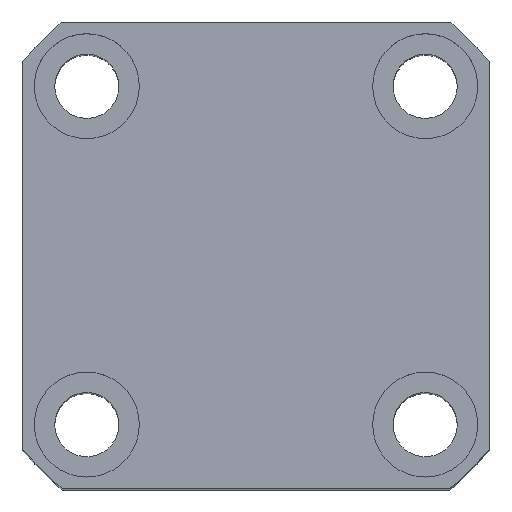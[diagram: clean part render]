
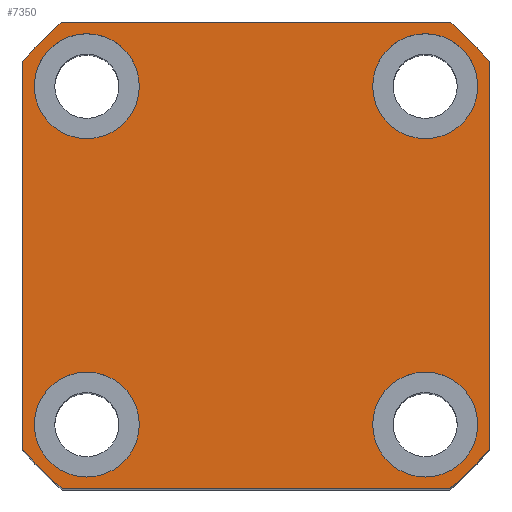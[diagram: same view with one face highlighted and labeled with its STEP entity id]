
A CAD part, top view. The second image highlights one B-rep face of the part: STEP entity #7350.
In plain terms, the highlighted planar face has unit normal (0, 0, 1).
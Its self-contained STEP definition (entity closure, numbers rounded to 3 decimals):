
#6 = CARTESIAN_POINT ( 'NONE',  ( 20., 29., 62.5 ) ) ;
#17 = VECTOR ( 'NONE', #17394, 1000. ) ;
#73 = DIRECTION ( 'NONE',  ( 0., 0., 1. ) ) ;
#102 = CARTESIAN_POINT ( 'NONE',  ( -20., -29., 62.5 ) ) ;
#285 = DIRECTION ( 'NONE',  ( 0., 0., 1. ) ) ;
#292 = VERTEX_POINT ( 'NONE', #15828 ) ;
#428 = DIRECTION ( 'NONE',  ( 0., -1., 0. ) ) ;
#568 = VERTEX_POINT ( 'NONE', #16883 ) ;
#718 = DIRECTION ( 'NONE',  ( 1., 0., 0. ) ) ;
#903 = CARTESIAN_POINT ( 'NONE',  ( -38., -29., 62.5 ) ) ;
#1020 = FACE_OUTER_BOUND ( 'NONE', #5234, .T. ) ;
#1225 = CIRCLE ( 'NONE', #4037, 9. ) ;
#1286 = VERTEX_POINT ( 'NONE', #6 ) ;
#1467 = AXIS2_PLACEMENT_3D ( 'NONE', #5833, #14199, #8624 ) ;
#1583 = VERTEX_POINT ( 'NONE', #15772 ) ;
#1852 = VERTEX_POINT ( 'NONE', #7796 ) ;
#2068 = DIRECTION ( 'NONE',  ( 0., 0., 1. ) ) ;
#2073 = AXIS2_PLACEMENT_3D ( 'NONE', #9686, #12630, #15145 ) ;
#2148 = CARTESIAN_POINT ( 'NONE',  ( -33.226, -40., 62.5 ) ) ;
#2243 = EDGE_CURVE ( 'NONE', #14108, #5943, #10506, .T. ) ;
#2357 = CARTESIAN_POINT ( 'NONE',  ( 33.226, 40., 62.5 ) ) ;
#2402 = EDGE_CURVE ( 'NONE', #16177, #9061, #12923, .T. ) ;
#2406 = ORIENTED_EDGE ( 'NONE', *, *, #17835, .F. ) ;
#2515 = EDGE_LOOP ( 'NONE', ( #17496, #6824 ) ) ;
#2622 = ORIENTED_EDGE ( 'NONE', *, *, #16618, .T. ) ;
#2637 = DIRECTION ( 'NONE',  ( 1., 0., 0. ) ) ;
#2700 = CARTESIAN_POINT ( 'NONE',  ( 0., 0., 62.5 ) ) ;
#2776 = CARTESIAN_POINT ( 'NONE',  ( 40., 33.226, 62.5 ) ) ;
#2810 = AXIS2_PLACEMENT_3D ( 'NONE', #6272, #14658, #4885 ) ;
#3056 = VERTEX_POINT ( 'NONE', #3635 ) ;
#3172 = DIRECTION ( 'NONE',  ( 1., 0., 0. ) ) ;
#3584 = ORIENTED_EDGE ( 'NONE', *, *, #11214, .T. ) ;
#3612 = CIRCLE ( 'NONE', #12573, 9. ) ;
#3616 = CARTESIAN_POINT ( 'NONE',  ( -29., 29., 62.5 ) ) ;
#3635 = CARTESIAN_POINT ( 'NONE',  ( 38., 29., 62.5 ) ) ;
#3950 = AXIS2_PLACEMENT_3D ( 'NONE', #17189, #8726, #8858 ) ;
#4037 = AXIS2_PLACEMENT_3D ( 'NONE', #3616, #13358, #11899 ) ;
#4089 = EDGE_CURVE ( 'NONE', #17787, #9983, #12226, .T. ) ;
#4161 = AXIS2_PLACEMENT_3D ( 'NONE', #2700, #73, #2637 ) ;
#4166 = DIRECTION ( 'NONE',  ( 1., 0., 0. ) ) ;
#4372 = CARTESIAN_POINT ( 'NONE',  ( -33.226, 40., 62.5 ) ) ;
#4448 = ORIENTED_EDGE ( 'NONE', *, *, #4588, .F. ) ;
#4465 = ORIENTED_EDGE ( 'NONE', *, *, #5081, .T. ) ;
#4588 = EDGE_CURVE ( 'NONE', #5943, #14108, #9368, .T. ) ;
#4743 = FACE_BOUND ( 'NONE', #2515, .T. ) ;
#4885 = DIRECTION ( 'NONE',  ( 1., 0., 0. ) ) ;
#5081 = EDGE_CURVE ( 'NONE', #9061, #1852, #12866, .T. ) ;
#5110 = DIRECTION ( 'NONE',  ( 0., 0., 1. ) ) ;
#5234 = EDGE_LOOP ( 'NONE', ( #6577, #4465, #2622, #3584, #5808, #7494, #7326, #10937 ) ) ;
#5320 = CARTESIAN_POINT ( 'NONE',  ( 0., 0., 62.5 ) ) ;
#5808 = ORIENTED_EDGE ( 'NONE', *, *, #4089, .T. ) ;
#5833 = CARTESIAN_POINT ( 'NONE',  ( 29., 29., 62.5 ) ) ;
#5943 = VERTEX_POINT ( 'NONE', #102 ) ;
#6272 = CARTESIAN_POINT ( 'NONE',  ( -29., 29., 62.5 ) ) ;
#6292 = AXIS2_PLACEMENT_3D ( 'NONE', #7217, #285, #3172 ) ;
#6391 = DIRECTION ( 'NONE',  ( 1., 0., 0. ) ) ;
#6577 = ORIENTED_EDGE ( 'NONE', *, *, #2402, .T. ) ;
#6683 = EDGE_LOOP ( 'NONE', ( #2406, #7028 ) ) ;
#6824 = ORIENTED_EDGE ( 'NONE', *, *, #10182, .F. ) ;
#6836 = LINE ( 'NONE', #4372, #7731 ) ;
#7028 = ORIENTED_EDGE ( 'NONE', *, *, #9817, .F. ) ;
#7217 = CARTESIAN_POINT ( 'NONE',  ( 0., 0., 62.5 ) ) ;
#7326 = ORIENTED_EDGE ( 'NONE', *, *, #11802, .T. ) ;
#7350 = ADVANCED_FACE ( 'NONE', ( #10607, #8866, #8409, #4743, #1020 ), #11156, .T. ) ;
#7367 = ORIENTED_EDGE ( 'NONE', *, *, #9353, .F. ) ;
#7466 = CARTESIAN_POINT ( 'NONE',  ( -33.226, -40., 62.5 ) ) ;
#7494 = ORIENTED_EDGE ( 'NONE', *, *, #16554, .T. ) ;
#7567 = CIRCLE ( 'NONE', #2073, 9. ) ;
#7593 = CARTESIAN_POINT ( 'NONE',  ( 40., 33.226, 62.5 ) ) ;
#7639 = CIRCLE ( 'NONE', #2810, 9. ) ;
#7697 = AXIS2_PLACEMENT_3D ( 'NONE', #7905, #5110, #17747 ) ;
#7731 = VECTOR ( 'NONE', #12658, 1000. ) ;
#7796 = CARTESIAN_POINT ( 'NONE',  ( -40., -33.226, 62.5 ) ) ;
#7800 = VERTEX_POINT ( 'NONE', #7871 ) ;
#7871 = CARTESIAN_POINT ( 'NONE',  ( 38., -29., 62.5 ) ) ;
#7905 = CARTESIAN_POINT ( 'NONE',  ( 0., 0., 62.5 ) ) ;
#8148 = AXIS2_PLACEMENT_3D ( 'NONE', #15237, #9535, #17971 ) ;
#8409 = FACE_BOUND ( 'NONE', #6683, .T. ) ;
#8410 = DIRECTION ( 'NONE',  ( 1., 0., 0. ) ) ;
#8538 = EDGE_LOOP ( 'NONE', ( #4448, #14183 ) ) ;
#8574 = ORIENTED_EDGE ( 'NONE', *, *, #13961, .F. ) ;
#8624 = DIRECTION ( 'NONE',  ( 1., 0., 0. ) ) ;
#8726 = DIRECTION ( 'NONE',  ( 0., 0., 1. ) ) ;
#8858 = DIRECTION ( 'NONE',  ( 1., 0., 0. ) ) ;
#8866 = FACE_BOUND ( 'NONE', #8538, .T. ) ;
#9057 = CARTESIAN_POINT ( 'NONE',  ( -29., -29., 62.5 ) ) ;
#9061 = VERTEX_POINT ( 'NONE', #11636 ) ;
#9249 = CARTESIAN_POINT ( 'NONE',  ( -33.226, 40., 62.5 ) ) ;
#9353 = EDGE_CURVE ( 'NONE', #7800, #292, #7567, .T. ) ;
#9368 = CIRCLE ( 'NONE', #8148, 9. ) ;
#9467 = LINE ( 'NONE', #2148, #10142 ) ;
#9535 = DIRECTION ( 'NONE',  ( 0., 0., 1. ) ) ;
#9570 = VECTOR ( 'NONE', #428, 1000. ) ;
#9686 = CARTESIAN_POINT ( 'NONE',  ( 29., -29., 62.5 ) ) ;
#9817 = EDGE_CURVE ( 'NONE', #1583, #568, #1225, .T. ) ;
#9983 = VERTEX_POINT ( 'NONE', #13711 ) ;
#10057 = CIRCLE ( 'NONE', #7697, 52. ) ;
#10142 = VECTOR ( 'NONE', #6391, 1000. ) ;
#10182 = EDGE_CURVE ( 'NONE', #1286, #3056, #11227, .T. ) ;
#10232 = CARTESIAN_POINT ( 'NONE',  ( -40., 33.226, 62.5 ) ) ;
#10506 = CIRCLE ( 'NONE', #12361, 9. ) ;
#10607 = FACE_BOUND ( 'NONE', #17078, .T. ) ;
#10641 = DIRECTION ( 'NONE',  ( 0., 0., 1. ) ) ;
#10937 = ORIENTED_EDGE ( 'NONE', *, *, #12677, .T. ) ;
#11156 = PLANE ( 'NONE',  #12173 ) ;
#11214 = EDGE_CURVE ( 'NONE', #14539, #17787, #9467, .T. ) ;
#11227 = CIRCLE ( 'NONE', #1467, 9. ) ;
#11491 = AXIS2_PLACEMENT_3D ( 'NONE', #13524, #10641, #13347 ) ;
#11636 = CARTESIAN_POINT ( 'NONE',  ( -40., 33.226, 62.5 ) ) ;
#11802 = EDGE_CURVE ( 'NONE', #14783, #14892, #15862, .T. ) ;
#11816 = EDGE_CURVE ( 'NONE', #3056, #1286, #3612, .T. ) ;
#11899 = DIRECTION ( 'NONE',  ( 1., 0., 0. ) ) ;
#12173 = AXIS2_PLACEMENT_3D ( 'NONE', #5320, #15094, #4166 ) ;
#12226 = CIRCLE ( 'NONE', #6292, 52. ) ;
#12332 = CARTESIAN_POINT ( 'NONE',  ( 29., 29., 62.5 ) ) ;
#12361 = AXIS2_PLACEMENT_3D ( 'NONE', #9057, #2068, #718 ) ;
#12573 = AXIS2_PLACEMENT_3D ( 'NONE', #12332, #13978, #8410 ) ;
#12630 = DIRECTION ( 'NONE',  ( 0., 0., 1. ) ) ;
#12658 = DIRECTION ( 'NONE',  ( -1., 0., 0. ) ) ;
#12677 = EDGE_CURVE ( 'NONE', #14892, #16177, #6836, .T. ) ;
#12866 = LINE ( 'NONE', #10232, #9570 ) ;
#12900 = CARTESIAN_POINT ( 'NONE',  ( 33.226, -40., 62.5 ) ) ;
#12923 = CIRCLE ( 'NONE', #3950, 52. ) ;
#13347 = DIRECTION ( 'NONE',  ( 1., 0., 0. ) ) ;
#13358 = DIRECTION ( 'NONE',  ( 0., 0., 1. ) ) ;
#13524 = CARTESIAN_POINT ( 'NONE',  ( 29., -29., 62.5 ) ) ;
#13711 = CARTESIAN_POINT ( 'NONE',  ( 40., -33.226, 62.5 ) ) ;
#13961 = EDGE_CURVE ( 'NONE', #292, #7800, #17964, .T. ) ;
#13978 = DIRECTION ( 'NONE',  ( 0., 0., 1. ) ) ;
#14108 = VERTEX_POINT ( 'NONE', #903 ) ;
#14183 = ORIENTED_EDGE ( 'NONE', *, *, #2243, .F. ) ;
#14199 = DIRECTION ( 'NONE',  ( 0., 0., 1. ) ) ;
#14539 = VERTEX_POINT ( 'NONE', #7466 ) ;
#14658 = DIRECTION ( 'NONE',  ( 0., 0., 1. ) ) ;
#14783 = VERTEX_POINT ( 'NONE', #7593 ) ;
#14892 = VERTEX_POINT ( 'NONE', #2357 ) ;
#15094 = DIRECTION ( 'NONE',  ( 0., 0., 1. ) ) ;
#15145 = DIRECTION ( 'NONE',  ( 1., 0., 0. ) ) ;
#15237 = CARTESIAN_POINT ( 'NONE',  ( -29., -29., 62.5 ) ) ;
#15316 = LINE ( 'NONE', #2776, #17 ) ;
#15772 = CARTESIAN_POINT ( 'NONE',  ( -38., 29., 62.5 ) ) ;
#15828 = CARTESIAN_POINT ( 'NONE',  ( 20., -29., 62.5 ) ) ;
#15862 = CIRCLE ( 'NONE', #4161, 52. ) ;
#16177 = VERTEX_POINT ( 'NONE', #9249 ) ;
#16554 = EDGE_CURVE ( 'NONE', #9983, #14783, #15316, .T. ) ;
#16618 = EDGE_CURVE ( 'NONE', #1852, #14539, #10057, .T. ) ;
#16883 = CARTESIAN_POINT ( 'NONE',  ( -20., 29., 62.5 ) ) ;
#17078 = EDGE_LOOP ( 'NONE', ( #7367, #8574 ) ) ;
#17189 = CARTESIAN_POINT ( 'NONE',  ( 0., 0., 62.5 ) ) ;
#17394 = DIRECTION ( 'NONE',  ( 0., 1., 0. ) ) ;
#17496 = ORIENTED_EDGE ( 'NONE', *, *, #11816, .F. ) ;
#17747 = DIRECTION ( 'NONE',  ( 1., 0., 0. ) ) ;
#17787 = VERTEX_POINT ( 'NONE', #12900 ) ;
#17835 = EDGE_CURVE ( 'NONE', #568, #1583, #7639, .T. ) ;
#17964 = CIRCLE ( 'NONE', #11491, 9. ) ;
#17971 = DIRECTION ( 'NONE',  ( 1., 0., 0. ) ) ;
